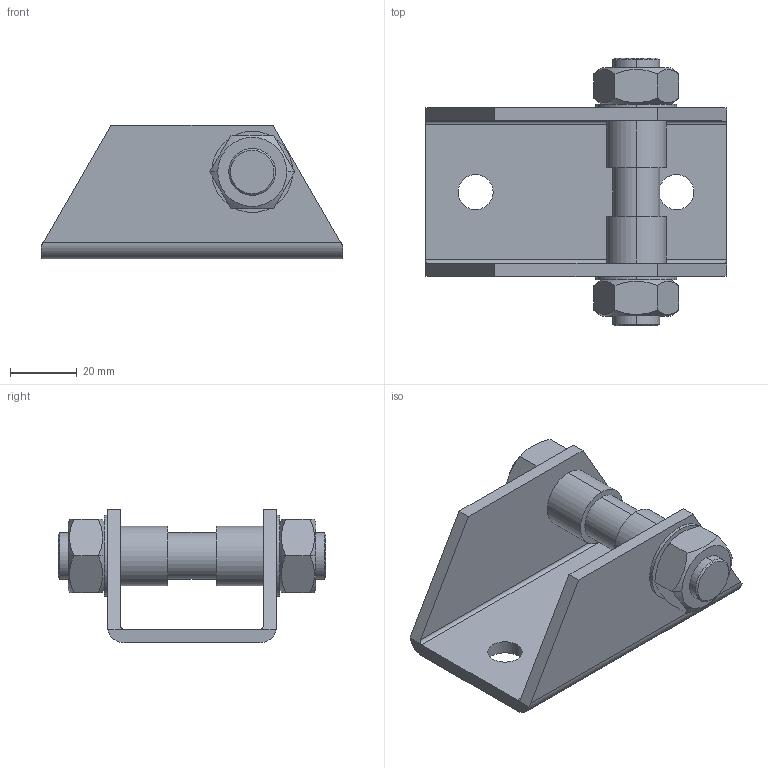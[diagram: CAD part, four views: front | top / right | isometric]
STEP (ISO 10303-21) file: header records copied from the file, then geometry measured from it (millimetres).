
FILE_DESCRIPTION (( 'STEP AP214' ), '1' );
FILE_NAME ('15.BVS-20-40RVS304.STEP', '2017-11-09T10:46:54', ( '' ), ( '' ), 'SwSTEP 2.0', 'SolidWorks 2016', '' );
FILE_SCHEMA (( 'AUTOMOTIVE_DESIGN' ));
Length unit declared in the file: millimetre
Products named in the file (1): 15.BVS-20-40RVS304
Bounding box: 90 x 80 x 40 mm (x, y, z)
Volume: 56398.3 mm3; surface area: 31591.6 mm2
Topology: 8 solids, 8 shells, 86 faces, 194 edges, 124 vertices
Faces by surface type: plane 40, cylinder 34, sphere 8, cone 4
Entity records: 2641 total; most frequent: DIRECTION 468, CARTESIAN_POINT 429, ORIENTED_EDGE 388, AXIS2_PLACEMENT_3D 195, EDGE_CURVE 194, VERTEX_POINT 124, CIRCLE 108, EDGE_LOOP 106
